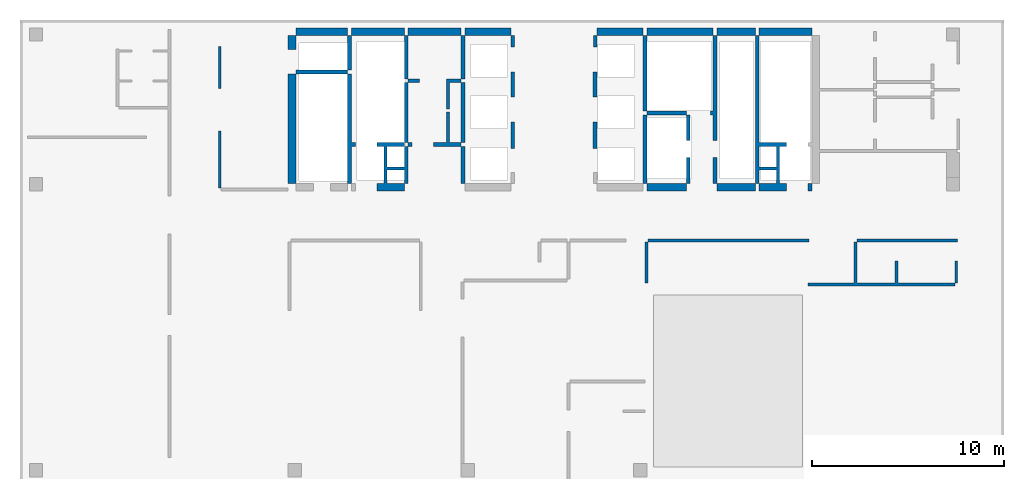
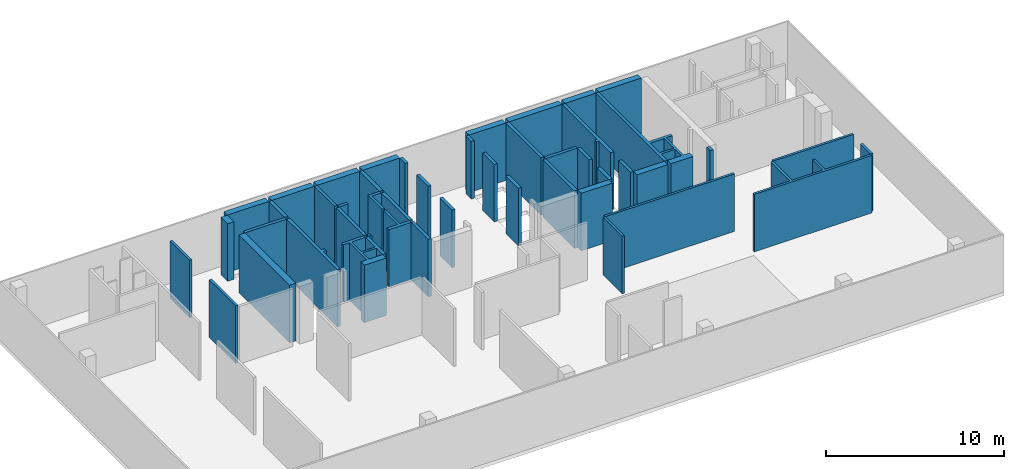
# One storey, part 2 of 5: 47 walls.
"""IFC4 building model written with IfcOpenShell, lengths in millimetres."""

from ifc_helpers import new_model, si_unit, frame, origin, place, context, project, spatial, triangles, element, save


model = new_model("IFC4")

# Units and contexts
model_context = context("Model", 3, precision=0.001, world=origin())
ifc_project = project(units=[si_unit("LENGTHUNIT", "METRE", prefix="MILLI"), si_unit("AREAUNIT", "SQUARE_METRE"), si_unit("VOLUMEUNIT", "CUBIC_METRE")], contexts=[model_context])

# Site, building, storey
site_placement = place(None, origin())
site = spatial("IfcSite", under=ifc_project, at=site_placement, Name="Site", CompositionType="ELEMENT")
building_placement = place(site_placement, origin())
building = spatial("IfcBuilding", under=site, at=building_placement, Name="INNOCEAN", CompositionType="ELEMENT")
storey_placement = place(building_placement, frame((0.0, 0.0, 76400.0)))
storey = spatial("IfcBuildingStorey", under=building, at=storey_placement, Name="F18", CompositionType="ELEMENT", Elevation=76400.0)

# Walls
wall_1_placement = place(storey_placement, origin())
element("IfcWall", 1, at=wall_1_placement, inside=storey, Name="F18_Walls_F18_009", context=model_context, shape_type="Tessellation", body=[
    triangles([(18130.0, 19245.0, 0.0), (18130.0, 17316.1, 0.0), (18130.0, 17316.1, 3950.0), (18130.0, 19245.0, 3950.0), (17749.4, 17316.1, 0.0), (17749.4, 17316.1, 3950.0), (17749.4, 16922.4, 0.0), (17749.4, 16922.4, 3950.0), (19183.7, 16922.4, 0.0), (19183.7, 16922.4, 3950.0), (19183.7, 17316.1, 0.0), (19183.7, 17316.1, 3950.0), (19374.1, 17316.1, 0.0), (19374.1, 17316.1, 3950.0), (19374.1, 19246.7, 0.0), (19374.1, 19246.7, 3950.0), (19183.7, 19246.7, 0.0), (19183.7, 19246.7, 3950.0), (19183.7, 19449.9, 0.0), (19183.7, 19449.9, 3950.0), (17749.4, 19449.9, 0.0), (17749.4, 19449.9, 3950.0), (17749.4, 19246.7, 0.0), (17749.4, 19246.7, 3950.0), (18130.2, 19246.7, 0.0), (18130.2, 19246.7, 3950.0), (18130.2, 19245.0, 0.0), (18130.2, 19245.0, 3950.0), (18282.5, 17316.1, 0.0), (18282.5, 17316.1, 3950.0), (18282.5, 18014.7, 0.0), (18282.5, 18014.7, 3950.0), (19183.7, 18014.7, 0.0), (19183.7, 18014.7, 3950.0), (19183.7, 18167.1, 0.0), (19183.7, 18167.1, 3950.0), (18282.5, 18167.1, 0.0), (18282.5, 18167.1, 3950.0), (18282.5, 19246.7, 0.0), (18282.5, 19246.7, 3950.0)], [[1, 2, 3], [1, 3, 4], [2, 5, 6], [2, 6, 3], [7, 8, 6], [5, 7, 6], [7, 9, 10], [7, 10, 8], [11, 12, 10], [9, 11, 10], [11, 13, 14], [11, 14, 12], [13, 15, 16], [13, 16, 14], [15, 17, 18], [15, 18, 16], [17, 19, 20], [17, 20, 18], [19, 21, 22], [19, 22, 20], [21, 23, 24], [21, 24, 22], [25, 26, 24], [23, 25, 24], [25, 27, 28], [25, 28, 26], [27, 1, 4], [27, 4, 28], [11, 29, 30], [11, 30, 12], [29, 31, 32], [29, 32, 30], [31, 33, 34], [31, 34, 32], [33, 11, 12], [33, 12, 34], [17, 35, 36], [17, 36, 18], [35, 37, 38], [35, 38, 36], [37, 39, 40], [37, 40, 38], [39, 17, 18], [39, 18, 40], [33, 13, 11], [35, 13, 33], [29, 11, 9], [7, 29, 9], [2, 29, 7], [5, 2, 7], [31, 35, 33], [31, 29, 2], [15, 13, 35], [37, 35, 31], [17, 15, 35], [39, 19, 17], [27, 39, 37], [1, 27, 37], [25, 39, 27], [21, 25, 23], [21, 19, 39], [21, 39, 25], [2, 1, 37], [2, 37, 31], [14, 34, 12], [14, 36, 34], [12, 30, 10], [30, 8, 10], [30, 3, 8], [3, 6, 8], [36, 32, 34], [30, 32, 3], [14, 16, 36], [36, 38, 32], [16, 18, 36], [20, 40, 18], [40, 28, 38], [28, 4, 38], [40, 26, 28], [26, 22, 24], [20, 22, 40], [40, 22, 26], [4, 3, 38], [38, 3, 32]], closed=True),
])
wall_2_placement = place(storey_placement, origin())
element("IfcWall", 2, at=wall_2_placement, inside=storey, Name="F18_Walls_F18_010", context=model_context, shape_type="Tessellation", body=[
    triangles([(16429.3, 23019.0, 0.0), (16226.2, 23019.0, 0.0), (16226.2, 23019.0, 3950.0), (16429.3, 23019.0, 3950.0), (16429.3, 19449.9, 0.0), (16429.3, 19449.9, 3950.0), (16632.4, 19449.9, 3950.0), (16632.4, 19449.9, 0.0), (16632.4, 19246.7, 0.0), (16632.4, 19246.7, 3950.0), (16429.3, 19246.7, 3950.0), (16429.3, 19246.7, 0.0), (16429.3, 17316.1, 0.0), (16429.3, 17316.1, 3950.0), (16226.2, 17316.1, 0.0), (16226.2, 17316.1, 3950.0), (16226.2, 19246.7, 0.0), (16226.2, 19246.7, 3950.0), (16226.2, 19449.9, 0.0), (16226.2, 19449.9, 3950.0)], [[1, 2, 3], [1, 3, 4], [5, 1, 4], [5, 4, 6], [5, 6, 7], [8, 5, 7], [9, 8, 7], [9, 7, 10], [9, 10, 11], [12, 9, 11], [13, 12, 11], [13, 11, 14], [15, 13, 14], [15, 14, 16], [17, 15, 16], [17, 16, 18], [19, 17, 18], [19, 18, 20], [2, 19, 20], [2, 20, 3], [17, 12, 13], [17, 13, 15], [5, 8, 9], [5, 9, 12], [19, 5, 12], [19, 12, 17], [1, 5, 19], [2, 1, 19], [11, 18, 14], [14, 18, 16], [7, 6, 10], [10, 6, 11], [6, 20, 11], [11, 20, 18], [6, 4, 20], [4, 3, 20]], closed=True),
])
wall_3_placement = place(storey_placement, origin())
element("IfcWall", 3, at=wall_3_placement, inside=storey, Name="F18_Walls_F18_011", context=model_context, shape_type="Tessellation", body=[
    triangles([(9638.4, 17074.8, 0.0), (9638.4, 20046.9, 0.0), (9638.4, 20046.9, 3950.0), (9638.4, 17074.8, 3950.0), (9486.1, 17074.8, 0.0), (9486.1, 17074.8, 3950.0), (9486.1, 20046.9, 0.0), (9486.1, 20046.9, 3950.0)], [[1, 2, 3], [1, 3, 4], [5, 1, 4], [5, 4, 6], [7, 5, 6], [7, 6, 8], [2, 7, 8], [2, 8, 3], [7, 2, 1], [7, 1, 5], [3, 8, 4], [4, 8, 6]], closed=True),
])
wall_4_placement = place(storey_placement, origin())
element("IfcWall", 4, at=wall_4_placement, inside=storey, Name="F18_Walls_F18_013", context=model_context, shape_type="Tessellation", body=[
    triangles([(13535.2, 17316.1, 0.0), (13535.2, 17316.1, 3950.0), (13129.0, 17316.1, 3950.0), (13129.0, 17316.1, 0.0), (13129.0, 23019.0, 0.0), (13129.0, 23019.0, 3950.0), (13535.2, 23019.0, 3950.0), (13535.2, 23019.0, 0.0)], [[1, 2, 3], [4, 1, 3], [5, 4, 3], [5, 3, 6], [5, 6, 7], [8, 5, 7], [1, 8, 7], [1, 7, 2], [5, 1, 4], [5, 8, 1], [2, 6, 3], [7, 6, 2]], closed=True),
])
wall_5_placement = place(storey_placement, origin())
element("IfcWall", 5, at=wall_5_placement, inside=storey, Name="F18_Walls_F18_016", context=model_context, shape_type="Tessellation", body=[
    triangles([(16226.2, 23019.0, 0.0), (16226.2, 23222.2, 0.0), (16226.2, 23222.2, 3950.0), (16226.2, 23019.0, 3950.0), (13535.2, 23019.0, 0.0), (13535.2, 23019.0, 3950.0), (13535.2, 23222.2, 0.0), (13535.2, 23222.2, 3950.0)], [[1, 2, 3], [1, 3, 4], [5, 1, 4], [5, 4, 6], [7, 5, 6], [7, 6, 8], [2, 7, 8], [2, 8, 3], [7, 2, 1], [7, 1, 5], [3, 8, 4], [4, 8, 6]], closed=True),
])
wall_6_placement = place(storey_placement, origin())
element("IfcWall", 6, at=wall_6_placement, inside=storey, Name="F18_Walls_F18_017", context=model_context, shape_type="Tessellation", body=[
    triangles([(9638.4, 22244.2, 0.0), (9638.4, 24454.2, 0.0), (9638.4, 24454.2, 3950.0), (9638.4, 22244.2, 3950.0), (9486.1, 22244.2, 0.0), (9486.1, 22244.2, 3950.0), (9486.1, 24454.2, 0.0), (9486.1, 24454.2, 3950.0)], [[1, 2, 3], [1, 3, 4], [5, 1, 4], [5, 4, 6], [7, 5, 6], [7, 6, 8], [2, 7, 8], [2, 8, 3], [7, 2, 1], [7, 1, 5], [3, 8, 4], [4, 8, 6]], closed=True),
])
wall_7_placement = place(storey_placement, origin())
element("IfcWall", 7, at=wall_7_placement, inside=storey, Name="F18_Walls_F18_018", context=model_context, shape_type="Tessellation", body=[
    triangles([(16429.3, 23222.2, 0.0), (16429.3, 25025.8, 0.0), (16429.3, 25025.8, 3950.0), (16429.3, 23222.2, 3950.0), (16226.2, 23222.2, 0.0), (16226.2, 23222.2, 3950.0), (16226.2, 25025.8, 0.0), (16226.2, 25025.8, 3950.0)], [[1, 2, 3], [1, 3, 4], [5, 1, 4], [5, 4, 6], [7, 5, 6], [7, 6, 8], [2, 7, 8], [2, 8, 3], [7, 2, 1], [7, 1, 5], [3, 8, 4], [4, 8, 6]], closed=True),
])
wall_8_placement = place(storey_placement, origin())
element("IfcWall", 8, at=wall_8_placement, inside=storey, Name="F18_Walls_F18_019", context=model_context, shape_type="Tessellation", body=[
    triangles([(13535.2, 24276.4, 0.0), (13535.2, 25025.8, 0.0), (13535.2, 25025.8, 3950.0), (13535.2, 24276.4, 3950.0), (13129.0, 24276.4, 3950.0), (13129.0, 24276.4, 0.0), (13129.0, 25025.8, 0.0), (13129.0, 25025.8, 3950.0)], [[1, 2, 3], [1, 3, 4], [1, 4, 5], [6, 1, 5], [7, 6, 5], [7, 5, 8], [7, 8, 3], [2, 7, 3], [2, 1, 6], [7, 2, 6], [4, 3, 5], [3, 8, 5]], closed=True),
])
wall_9_placement = place(storey_placement, origin())
element("IfcWall", 9, at=wall_9_placement, inside=storey, Name="F18_Walls_F18_020", context=model_context, shape_type="Tessellation", body=[
    triangles([(13535.2, 25419.5, 0.0), (13535.2, 25025.8, 0.0), (13535.2, 25025.8, 3950.0), (13535.2, 25419.5, 3950.0), (16226.2, 25419.5, 0.0), (16226.2, 25419.5, 3950.0), (16226.2, 25025.8, 0.0), (16226.2, 25025.8, 3950.0)], [[1, 2, 3], [1, 3, 4], [5, 1, 4], [5, 4, 6], [7, 5, 6], [7, 6, 8], [2, 7, 8], [2, 8, 3], [2, 5, 7], [1, 5, 2], [6, 3, 8], [6, 4, 3]], closed=True),
])
wall_10_placement = place(storey_placement, origin())
element("IfcWall", 10, at=wall_10_placement, inside=storey, Name="F18_Walls_F18_021", context=model_context, shape_type="Tessellation", body=[
    triangles([(19183.7, 25025.8, 0.0), (19183.7, 25419.5, 0.0), (19183.7, 25419.5, 3950.0), (19183.7, 25025.8, 3950.0), (16429.3, 25025.8, 0.0), (16429.3, 25025.8, 3950.0), (16429.3, 25419.5, 0.0), (16429.3, 25419.5, 3950.0)], [[1, 2, 3], [1, 3, 4], [5, 1, 4], [5, 4, 6], [7, 5, 6], [7, 6, 8], [2, 7, 8], [2, 8, 3], [7, 2, 1], [7, 1, 5], [3, 8, 4], [4, 8, 6]], closed=True),
])
wall_11_placement = place(storey_placement, origin())
element("IfcWall", 11, at=wall_11_placement, inside=storey, Name="F18_Walls_F18_033", context=model_context, shape_type="Tessellation", body=[
    triangles([(22128.5, 17316.1, 0.0), (22331.6, 17316.1, 0.0), (22331.6, 17316.1, 3950.0), (22128.5, 17316.1, 3950.0), (22128.5, 19246.7, 0.0), (22128.5, 19246.7, 3950.0), (22331.6, 19246.7, 0.0), (22331.6, 19246.7, 3950.0)], [[1, 2, 3], [1, 3, 4], [5, 1, 4], [5, 4, 6], [7, 5, 6], [7, 6, 8], [2, 7, 8], [2, 8, 3], [5, 2, 1], [5, 7, 2], [3, 6, 4], [8, 6, 3]], closed=True),
])
wall_12_placement = place(storey_placement, origin())
element("IfcWall", 12, at=wall_12_placement, inside=storey, Name="F18_Walls_F18_034", context=model_context, shape_type="Tessellation", body=[
    triangles([(19374.1, 19449.9, 0.0), (19374.1, 19449.9, 3950.0), (19577.2, 19449.9, 3950.0), (19577.2, 19449.9, 0.0), (19577.2, 19246.7, 0.0), (19577.2, 19246.7, 3950.0), (19374.1, 19246.7, 3950.0), (19374.1, 19246.7, 0.0)], [[1, 2, 3], [4, 1, 3], [5, 4, 3], [5, 3, 6], [5, 6, 7], [8, 5, 7], [1, 8, 7], [1, 7, 2], [1, 4, 5], [1, 5, 8], [3, 2, 6], [6, 2, 7]], closed=True),
])
wall_13_placement = place(storey_placement, origin())
element("IfcWall", 13, at=wall_13_placement, inside=storey, Name="F18_Walls_F18_035", context=model_context, shape_type="Tessellation", body=[
    triangles([(22128.5, 19246.7, 0.0), (22128.5, 19449.9, 0.0), (22128.5, 19449.9, 3950.0), (22128.5, 19246.7, 3950.0), (20694.2, 19246.7, 0.0), (20694.2, 19246.7, 3950.0), (20694.2, 19449.9, 0.0), (20694.2, 19449.9, 3950.0), (21366.9, 19449.9, 0.0), (21366.9, 19449.9, 3950.0), (21366.9, 21024.9, 0.0), (21366.9, 21024.9, 3950.0), (21519.3, 21024.9, 0.0), (21519.3, 21024.9, 3950.0), (21519.3, 19449.9, 0.0), (21519.3, 19449.9, 3950.0)], [[1, 2, 3], [1, 3, 4], [5, 1, 4], [5, 4, 6], [7, 5, 6], [7, 6, 8], [9, 7, 8], [9, 8, 10], [11, 9, 10], [11, 10, 12], [13, 11, 12], [13, 12, 14], [15, 13, 14], [15, 14, 16], [2, 15, 16], [2, 16, 3], [15, 2, 1], [9, 15, 1], [5, 9, 1], [7, 9, 5], [11, 13, 15], [11, 15, 9], [3, 16, 4], [16, 10, 4], [10, 6, 4], [10, 8, 6], [14, 12, 16], [16, 12, 10]], closed=True),
])
wall_14_placement = place(storey_placement, origin())
element("IfcWall", 14, at=wall_14_placement, inside=storey, Name="F18_Walls_F18_036", context=model_context, shape_type="Tessellation", body=[
    triangles([(24730.6, 19119.7, 0.0), (24921.0, 19119.7, 0.0), (24921.0, 19119.7, 3950.0), (24730.6, 19119.7, 3950.0), (24730.6, 19120.0, 0.0), (24730.6, 19120.0, 3950.0), (24730.0, 19120.0, 0.0), (24730.0, 19120.0, 3950.0), (24730.0, 20515.0, 0.0), (24730.0, 20515.0, 3950.0), (24730.6, 20515.0, 0.0), (24730.6, 20515.0, 3950.0), (24730.6, 20516.8, 3950.0), (24730.6, 20516.8, 0.0), (24921.0, 20516.8, 0.0), (24921.0, 20516.8, 3950.0)], [[1, 2, 3], [1, 3, 4], [5, 1, 4], [5, 4, 6], [7, 5, 6], [7, 6, 8], [9, 7, 8], [9, 8, 10], [11, 9, 10], [11, 10, 12], [11, 12, 13], [14, 11, 13], [15, 14, 13], [15, 13, 16], [2, 15, 16], [2, 16, 3], [5, 2, 1], [11, 15, 2], [11, 2, 5], [9, 5, 7], [9, 11, 5], [14, 15, 11], [3, 6, 4], [16, 12, 3], [3, 12, 6], [6, 10, 8], [12, 10, 6], [16, 13, 12]], closed=True),
])
wall_15_placement = place(storey_placement, origin())
element("IfcWall", 15, at=wall_15_placement, inside=storey, Name="F18_Walls_F18_037", context=model_context, shape_type="Tessellation", body=[
    triangles([(19183.7, 19449.9, 0.0), (19374.1, 19449.9, 0.0), (19374.1, 19449.9, 3950.0), (19183.7, 19449.9, 3950.0), (19183.7, 22574.4, 0.0), (19183.7, 22574.4, 3950.0), (19374.1, 22574.4, 0.0), (19374.1, 22574.4, 3950.0)], [[1, 2, 3], [1, 3, 4], [5, 1, 4], [5, 4, 6], [7, 5, 6], [7, 6, 8], [2, 7, 8], [2, 8, 3], [7, 2, 1], [5, 7, 1], [3, 8, 4], [8, 6, 4]], closed=True),
])
wall_16_placement = place(storey_placement, origin())
element("IfcWall", 16, at=wall_16_placement, inside=storey, Name="F18_Walls_F18_038", context=model_context, shape_type="Tessellation", body=[
    triangles([(22331.6, 19449.9, 0.0), (22331.6, 22574.4, 0.0), (22331.6, 22574.4, 3950.0), (22331.6, 19449.9, 3950.0), (22128.5, 19449.9, 0.0), (22128.5, 19449.9, 3950.0), (22128.5, 22574.4, 0.0), (22128.5, 22574.4, 3950.0)], [[1, 2, 3], [1, 3, 4], [5, 1, 4], [5, 4, 6], [7, 5, 6], [7, 6, 8], [2, 7, 8], [2, 8, 3], [2, 1, 5], [7, 2, 5], [4, 3, 6], [3, 8, 6]], closed=True),
])
wall_17_placement = place(storey_placement, origin())
element("IfcWall", 17, at=wall_17_placement, inside=storey, Name="F18_Walls_F18_039", context=model_context, shape_type="Tessellation", body=[
    triangles([(22128.5, 22765.0, 0.0), (22128.5, 22765.0, 3950.0), (22128.5, 22574.4, 3950.0), (22128.5, 22574.4, 0.0), (21519.3, 22574.4, 0.0), (21519.3, 22574.4, 3950.0), (21519.3, 21177.3, 0.0), (21519.3, 21177.3, 3950.0), (21366.9, 21177.3, 0.0), (21366.9, 21177.3, 3950.0), (21366.9, 22574.4, 0.0), (21366.9, 22574.4, 3950.0), (21366.9, 22765.0, 3950.0), (21366.9, 22765.0, 0.0)], [[1, 2, 3], [4, 1, 3], [5, 4, 3], [5, 3, 6], [7, 5, 6], [7, 6, 8], [9, 7, 8], [9, 8, 10], [11, 9, 10], [11, 10, 12], [11, 12, 13], [14, 11, 13], [1, 14, 13], [1, 13, 2], [5, 1, 4], [11, 5, 7], [11, 7, 9], [14, 1, 5], [14, 5, 11], [2, 6, 3], [6, 12, 8], [8, 12, 10], [2, 13, 6], [6, 13, 12]], closed=True),
])
wall_18_placement = place(storey_placement, origin())
element("IfcWall", 18, at=wall_18_placement, inside=storey, Name="F18_Walls_F18_040", context=model_context, shape_type="Tessellation", body=[
    triangles([(24920.0, 21825.0, 0.0), (24920.0, 21825.1, 0.0), (24920.0, 21825.1, 3950.0), (24920.0, 21825.0, 3950.0), (24730.0, 21825.0, 0.0), (24730.0, 21825.0, 3950.0), (24730.0, 23120.0, 3950.0), (24730.0, 23120.0, 0.0), (24730.6, 23120.0, 0.0), (24730.6, 23120.0, 3950.0), (24730.6, 23120.6, 0.0), (24730.6, 23120.6, 3950.0), (24921.0, 23120.6, 0.0), (24921.0, 23120.6, 3950.0), (24921.0, 21825.1, 0.0), (24921.0, 21825.1, 3950.0)], [[1, 2, 3], [1, 3, 4], [5, 1, 4], [5, 4, 6], [5, 6, 7], [8, 5, 7], [9, 8, 7], [9, 7, 10], [11, 9, 10], [11, 10, 12], [13, 11, 12], [13, 12, 14], [15, 13, 14], [15, 14, 16], [2, 15, 16], [2, 16, 3], [5, 2, 1], [13, 15, 2], [9, 13, 2], [9, 2, 5], [8, 9, 5], [11, 13, 9], [3, 6, 4], [16, 14, 3], [14, 10, 3], [3, 10, 6], [10, 7, 6], [14, 12, 10]], closed=True),
])
wall_19_placement = place(storey_placement, origin())
element("IfcWall", 19, at=wall_19_placement, inside=storey, Name="F18_Walls_F18_041", context=model_context, shape_type="Tessellation", body=[
    triangles([(19374.1, 22574.4, 0.0), (19970.7, 22574.4, 0.0), (19970.7, 22574.4, 3950.0), (19374.1, 22574.4, 3950.0), (19374.1, 22765.0, 3950.0), (19374.1, 22765.0, 0.0), (19970.7, 22765.0, 0.0), (19970.7, 22765.0, 3950.0)], [[1, 2, 3], [1, 3, 4], [1, 4, 5], [6, 1, 5], [7, 6, 5], [7, 5, 8], [7, 8, 3], [2, 7, 3], [6, 2, 1], [6, 7, 2], [3, 5, 4], [8, 5, 3]], closed=True),
])
wall_20_placement = place(storey_placement, origin())
element("IfcWall", 20, at=wall_20_placement, inside=storey, Name="F18_Walls_F18_042", context=model_context, shape_type="Tessellation", body=[
    triangles([(19374.1, 22765.0, 0.0), (19374.1, 25025.8, 0.0), (19374.1, 25025.8, 3950.0), (19374.1, 22765.0, 3950.0), (19183.7, 22765.0, 0.0), (19183.7, 22765.0, 3950.0), (19183.7, 25025.8, 0.0), (19183.7, 25025.8, 3950.0)], [[1, 2, 3], [1, 3, 4], [5, 1, 4], [5, 4, 6], [7, 5, 6], [7, 6, 8], [2, 7, 8], [2, 8, 3], [7, 2, 1], [7, 1, 5], [3, 8, 4], [4, 8, 6]], closed=True),
])
wall_21_placement = place(storey_placement, origin())
element("IfcWall", 21, at=wall_21_placement, inside=storey, Name="F18_Walls_F18_043", context=model_context, shape_type="Tessellation", body=[
    triangles([(22128.5, 25025.8, 0.0), (22128.5, 22765.0, 0.0), (22128.5, 22765.0, 3950.0), (22128.5, 25025.8, 3950.0), (22331.6, 25025.8, 0.0), (22331.6, 25025.8, 3950.0), (22331.6, 22765.0, 0.0), (22331.6, 22765.0, 3950.0)], [[1, 2, 3], [1, 3, 4], [5, 1, 4], [5, 4, 6], [7, 5, 6], [7, 6, 8], [2, 7, 8], [2, 8, 3], [1, 5, 7], [1, 7, 2], [6, 4, 8], [8, 4, 3]], closed=True),
])
wall_22_placement = place(storey_placement, origin())
element("IfcWall", 22, at=wall_22_placement, inside=storey, Name="F18_Walls_F18_044", context=model_context, shape_type="Tessellation", body=[
    triangles([(24730.6, 24416.1, 0.0), (24921.0, 24416.1, 0.0), (24921.0, 24416.1, 3950.0), (24730.6, 24416.1, 3950.0), (24730.6, 25025.8, 0.0), (24730.6, 25025.8, 3950.0), (24921.0, 25025.8, 0.0), (24921.0, 25025.8, 3950.0)], [[1, 2, 3], [1, 3, 4], [5, 1, 4], [5, 4, 6], [7, 5, 6], [7, 6, 8], [2, 7, 8], [2, 8, 3], [5, 2, 1], [5, 7, 2], [3, 6, 4], [8, 6, 3]], closed=True),
])
wall_23_placement = place(storey_placement, origin())
element("IfcWall", 23, at=wall_23_placement, inside=storey, Name="F18_Walls_F18_045", context=model_context, shape_type="Tessellation", body=[
    triangles([(19374.1, 25025.8, 0.0), (22128.5, 25025.8, 0.0), (22128.5, 25025.8, 3950.0), (19374.1, 25025.8, 3950.0), (19374.1, 25419.5, 0.0), (19374.1, 25419.5, 3950.0), (22128.5, 25419.5, 0.0), (22128.5, 25419.5, 3950.0)], [[1, 2, 3], [1, 3, 4], [5, 1, 4], [5, 4, 6], [7, 5, 6], [7, 6, 8], [2, 7, 8], [2, 8, 3], [5, 2, 1], [5, 7, 2], [3, 6, 4], [8, 6, 3]], closed=True),
])
wall_24_placement = place(storey_placement, origin())
element("IfcWall", 24, at=wall_24_placement, inside=storey, Name="F18_Walls_F18_046", context=model_context, shape_type="Tessellation", body=[
    triangles([(24730.6, 25025.8, 0.0), (24730.6, 25419.5, 0.0), (24730.6, 25419.5, 3950.0), (24730.6, 25025.8, 3950.0), (22331.6, 25025.8, 0.0), (22331.6, 25025.8, 3950.0), (22331.6, 25419.5, 0.0), (22331.6, 25419.5, 3950.0)], [[1, 2, 3], [1, 3, 4], [5, 1, 4], [5, 4, 6], [7, 5, 6], [7, 6, 8], [2, 7, 8], [2, 8, 3], [7, 2, 1], [7, 1, 5], [3, 8, 4], [4, 8, 6]], closed=True),
])
wall_25_placement = place(storey_placement, origin())
element("IfcWall", 25, at=wall_25_placement, inside=storey, Name="F18_Walls_F18_049", context=model_context, shape_type="Tessellation", body=[
    triangles([(31876.9, 12121.3, 0.0), (31876.9, 14267.8, 0.0), (31876.9, 14267.8, 3950.0), (31876.9, 12121.3, 3950.0), (31724.6, 12121.3, 0.0), (31724.6, 12121.3, 3950.0), (31724.6, 14267.8, 0.0), (31724.6, 14267.8, 3950.0)], [[1, 2, 3], [1, 3, 4], [5, 1, 4], [5, 4, 6], [7, 5, 6], [7, 6, 8], [2, 7, 8], [2, 8, 3], [7, 2, 1], [7, 1, 5], [3, 8, 4], [4, 8, 6]], closed=True),
])
wall_26_placement = place(storey_placement, origin())
element("IfcWall", 26, at=wall_26_placement, inside=storey, Name="F18_Walls_F18_051", context=model_context, shape_type="Tessellation", body=[
    triangles([(31876.9, 14267.8, 3950.0), (40267.1, 14267.8, 0.0), (40267.1, 14267.8, 3950.0), (31876.9, 14267.8, 0.0), (31876.9, 14420.2, 0.0), (31876.9, 14420.2, 3950.0), (40267.1, 14420.2, 3950.0), (40267.1, 14420.2, 0.0)], [[1, 2, 3], [4, 2, 1], [5, 4, 1], [5, 1, 6], [7, 5, 6], [8, 5, 7], [2, 8, 7], [2, 7, 3], [5, 2, 4], [5, 8, 2], [3, 6, 1], [7, 6, 3]], closed=True),
])
wall_27_placement = place(storey_placement, origin())
element("IfcWall", 27, at=wall_27_placement, inside=storey, Name="F18_Walls_F18_052", context=model_context, shape_type="Tessellation", body=[
    triangles([(31826.2, 16922.4, 0.0), (33869.8, 16922.4, 0.0), (33869.8, 16922.4, 3950.0), (31826.2, 16922.4, 3950.0), (31826.2, 17316.1, 3950.0), (31826.2, 17316.1, 0.0), (33869.8, 17316.1, 0.0), (33869.8, 17316.1, 3950.0)], [[1, 2, 3], [1, 3, 4], [1, 4, 5], [6, 1, 5], [7, 6, 5], [7, 5, 8], [7, 8, 3], [2, 7, 3], [6, 2, 1], [6, 7, 2], [3, 5, 4], [8, 5, 3]], closed=True),
])
wall_28_placement = place(storey_placement, origin())
element("IfcWall", 28, at=wall_28_placement, inside=storey, Name="F18_Walls_F18_053", context=model_context, shape_type="Tessellation", body=[
    triangles([(37474.6, 19449.9, 0.0), (37474.6, 17316.1, 0.0), (37474.6, 17316.1, 3950.0), (37474.6, 19449.9, 3950.0), (37665.0, 17316.1, 0.0), (37665.0, 17316.1, 3950.0), (37665.0, 16922.4, 0.0), (37665.0, 16922.4, 3950.0), (39099.4, 16922.4, 0.0), (39099.4, 16922.4, 3950.0), (39099.4, 17316.1, 0.0), (39099.4, 17316.1, 3950.0), (38720.0, 17316.1, 0.0), (38720.0, 17316.1, 3950.0), (38720.0, 19245.0, 0.0), (38720.0, 19245.0, 3950.0), (39100.0, 19245.0, 0.0), (39100.0, 19245.0, 3950.0), (39100.0, 19450.0, 0.0), (39100.0, 19450.0, 3950.0), (37665.0, 19450.0, 0.0), (37665.0, 19450.0, 3950.0), (37665.0, 25025.8, 0.0), (37665.0, 25025.8, 3950.0), (37474.6, 25025.8, 0.0), (37474.6, 25025.8, 3950.0), (37665.0, 18014.7, 0.0), (37665.0, 18014.7, 3950.0), (38565.0, 18014.7, 0.0), (38565.0, 18014.7, 3950.0), (38565.0, 17316.1, 0.0), (38565.0, 17316.1, 3950.0), (37665.0, 19245.0, 0.0), (38565.0, 19245.0, 0.0), (38565.0, 19245.0, 3950.0), (37665.0, 19245.0, 3950.0), (38565.0, 18167.1, 0.0), (38565.0, 18167.1, 3950.0), (37665.0, 18167.1, 0.0), (37665.0, 18167.1, 3950.0)], [[1, 2, 3], [1, 3, 4], [2, 5, 6], [2, 6, 3], [7, 8, 6], [5, 7, 6], [7, 9, 10], [7, 10, 8], [11, 12, 10], [9, 11, 10], [11, 13, 14], [11, 14, 12], [13, 15, 16], [13, 16, 14], [17, 18, 16], [15, 17, 16], [17, 19, 20], [17, 20, 18], [19, 21, 22], [19, 22, 20], [21, 23, 24], [21, 24, 22], [23, 25, 26], [23, 26, 24], [25, 1, 4], [25, 4, 26], [5, 27, 28], [5, 28, 6], [27, 29, 30], [27, 30, 28], [29, 31, 32], [29, 32, 30], [31, 5, 6], [31, 6, 32], [33, 34, 35], [33, 35, 36], [34, 37, 38], [34, 38, 35], [37, 39, 40], [37, 40, 38], [39, 33, 36], [39, 36, 40], [13, 11, 9], [31, 13, 9], [7, 31, 9], [29, 13, 31], [5, 31, 7], [27, 5, 2], [39, 29, 27], [39, 37, 29], [39, 27, 2], [15, 19, 17], [34, 15, 37], [34, 19, 15], [21, 34, 33], [21, 19, 34], [1, 33, 39], [1, 21, 33], [1, 39, 2], [25, 23, 21], [25, 21, 1], [15, 13, 29], [15, 29, 37], [12, 14, 10], [14, 32, 10], [32, 8, 10], [14, 30, 32], [32, 6, 8], [6, 28, 3], [30, 40, 28], [38, 40, 30], [28, 40, 3], [20, 16, 18], [16, 35, 38], [20, 35, 16], [35, 22, 36], [20, 22, 35], [36, 4, 40], [22, 4, 36], [40, 4, 3], [24, 26, 22], [22, 26, 4], [14, 16, 30], [30, 16, 38]], closed=True),
])
wall_29_placement = place(storey_placement, origin())
element("IfcWall", 29, at=wall_29_placement, inside=storey, Name="F18_Walls_F18_055", context=model_context, shape_type="Tessellation", body=[
    triangles([(37474.6, 17316.1, 0.0), (37474.6, 17316.1, 3950.0), (37474.6, 16922.4, 3950.0), (37474.6, 16922.4, 0.0), (35469.1, 16922.4, 0.0), (35469.1, 16922.4, 3950.0), (35469.1, 17316.1, 3950.0), (35469.1, 17316.1, 0.0)], [[1, 2, 3], [4, 1, 3], [5, 4, 3], [5, 3, 6], [5, 6, 7], [8, 5, 7], [1, 8, 7], [1, 7, 2], [8, 1, 4], [8, 4, 5], [2, 7, 3], [3, 7, 6]], closed=True),
])
wall_30_placement = place(storey_placement, origin())
element("IfcWall", 30, at=wall_30_placement, inside=storey, Name="F18_Walls_F18_057", context=model_context, shape_type="Tessellation", body=[
    triangles([(34072.9, 17316.1, 0.0), (34072.9, 18649.7, 0.0), (34072.9, 18649.7, 3950.0), (34072.9, 17316.1, 3950.0), (33869.8, 17316.1, 0.0), (33869.8, 17316.1, 3950.0), (33869.8, 18649.7, 0.0), (33869.8, 18649.7, 3950.0)], [[1, 2, 3], [1, 3, 4], [5, 1, 4], [5, 4, 6], [7, 5, 6], [7, 6, 8], [2, 7, 8], [2, 8, 3], [7, 2, 1], [7, 1, 5], [3, 8, 4], [4, 8, 6]], closed=True),
])
wall_31_placement = place(storey_placement, origin())
element("IfcWall", 31, at=wall_31_placement, inside=storey, Name="F18_Walls_F18_058", context=model_context, shape_type="Tessellation", body=[
    triangles([(35469.1, 17316.1, 0.0), (35469.1, 18649.7, 0.0), (35469.1, 18649.7, 3950.0), (35469.1, 17316.1, 3950.0), (35266.0, 17316.1, 0.0), (35266.0, 17316.1, 3950.0), (35266.0, 18649.7, 0.0), (35266.0, 18649.7, 3950.0)], [[1, 2, 3], [1, 3, 4], [5, 1, 4], [5, 4, 6], [7, 5, 6], [7, 6, 8], [2, 7, 8], [2, 8, 3], [7, 2, 1], [7, 1, 5], [3, 8, 4], [4, 8, 6]], closed=True),
])
wall_32_placement = place(storey_placement, origin())
element("IfcWall", 32, at=wall_32_placement, inside=storey, Name="F18_Walls_F18_059", context=model_context, shape_type="Tessellation", body=[
    triangles([(31826.2, 20872.5, 0.0), (31826.2, 20872.5, 3950.0), (31826.2, 17316.1, 3950.0), (31826.2, 17316.1, 0.0), (31623.1, 17316.1, 3950.0), (31623.1, 17316.1, 0.0), (31623.1, 20872.5, 3950.0), (31623.1, 20872.5, 0.0)], [[1, 2, 3], [4, 1, 3], [4, 3, 5], [6, 4, 5], [6, 5, 7], [8, 6, 7], [8, 7, 2], [1, 8, 2], [8, 1, 4], [8, 4, 6], [2, 7, 3], [3, 7, 5]], closed=True),
])
wall_33_placement = place(storey_placement, origin())
element("IfcWall", 33, at=wall_33_placement, inside=storey, Name="F18_Walls_F18_060", context=model_context, shape_type="Tessellation", body=[
    triangles([(29020.0, 20515.0, 0.0), (29020.0, 19120.0, 0.0), (29020.0, 19120.0, 3950.0), (29020.0, 20515.0, 3950.0), (29020.9, 20515.0, 0.0), (29020.9, 20515.0, 3950.0), (29020.9, 20516.8, 3950.0), (29020.9, 20516.8, 0.0), (29224.0, 20516.8, 0.0), (29224.0, 20516.8, 3950.0), (29224.0, 20515.0, 3950.0), (29224.0, 20515.0, 0.0), (29225.0, 20515.0, 0.0), (29225.0, 20515.0, 3950.0), (29225.0, 19120.0, 0.0), (29225.0, 19120.0, 3950.0), (29224.0, 19120.0, 0.0), (29224.0, 19120.0, 3950.0), (29224.0, 19119.7, 0.0), (29224.0, 19119.7, 3950.0), (29020.9, 19119.7, 0.0), (29020.9, 19119.7, 3950.0), (29020.9, 19120.0, 0.0), (29020.9, 19120.0, 3950.0)], [[1, 2, 3], [1, 3, 4], [5, 1, 4], [5, 4, 6], [5, 6, 7], [8, 5, 7], [9, 8, 7], [9, 7, 10], [9, 10, 11], [12, 9, 11], [13, 12, 11], [13, 11, 14], [15, 13, 14], [15, 14, 16], [17, 15, 16], [17, 16, 18], [19, 17, 18], [19, 18, 20], [21, 19, 20], [21, 20, 22], [23, 21, 22], [23, 22, 24], [2, 23, 24], [2, 24, 3], [23, 17, 19], [23, 19, 21], [12, 13, 15], [12, 15, 17], [12, 17, 23], [5, 12, 23], [1, 23, 2], [1, 5, 23], [8, 9, 12], [8, 12, 5], [18, 24, 20], [20, 24, 22], [14, 11, 16], [16, 11, 18], [18, 11, 24], [11, 6, 24], [24, 4, 3], [6, 4, 24], [10, 7, 11], [11, 7, 6]], closed=True),
])
wall_34_placement = place(storey_placement, origin())
element("IfcWall", 34, at=wall_34_placement, inside=storey, Name="F18_Walls_F18_061", context=model_context, shape_type="Tessellation", body=[
    triangles([(33869.8, 19551.5, 0.0), (34072.9, 19551.5, 0.0), (34072.9, 19551.5, 3950.0), (33869.8, 19551.5, 3950.0), (33869.8, 20872.5, 0.0), (33869.8, 20872.5, 3950.0), (34072.9, 20872.5, 0.0), (34072.9, 20872.5, 3950.0)], [[1, 2, 3], [1, 3, 4], [5, 1, 4], [5, 4, 6], [7, 5, 6], [7, 6, 8], [2, 7, 8], [2, 8, 3], [5, 2, 1], [5, 7, 2], [3, 6, 4], [8, 6, 3]], closed=True),
])
wall_35_placement = place(storey_placement, origin())
element("IfcWall", 35, at=wall_35_placement, inside=storey, Name="F18_Walls_F18_062", context=model_context, shape_type="Tessellation", body=[
    triangles([(35266.0, 21075.7, 0.0), (35126.4, 21075.7, 0.0), (35126.4, 21075.7, 3950.0), (35266.0, 21075.7, 3950.0), (35266.0, 25025.8, 3950.0), (35266.0, 25025.8, 0.0), (35469.1, 25025.8, 0.0), (35469.1, 25025.8, 3950.0), (35469.1, 21075.7, 3950.0), (35469.1, 21075.7, 0.0), (35469.1, 20872.5, 0.0), (35469.1, 20872.5, 3950.0), (35469.1, 19551.5, 0.0), (35469.1, 19551.5, 3950.0), (35266.0, 19551.5, 0.0), (35266.0, 19551.5, 3950.0), (35266.0, 20872.5, 0.0), (35266.0, 20872.5, 3950.0), (35126.4, 20872.5, 0.0), (35126.4, 20872.5, 3950.0)], [[1, 2, 3], [1, 3, 4], [5, 1, 4], [6, 1, 5], [7, 6, 5], [7, 5, 8], [9, 7, 8], [10, 7, 9], [11, 10, 9], [11, 9, 12], [13, 11, 12], [13, 12, 14], [15, 13, 14], [15, 14, 16], [17, 15, 16], [17, 16, 18], [19, 17, 18], [19, 18, 20], [2, 19, 20], [2, 20, 3], [17, 11, 13], [17, 13, 15], [10, 11, 17], [1, 10, 17], [2, 17, 19], [2, 1, 17], [6, 7, 10], [6, 10, 1], [12, 18, 14], [14, 18, 16], [12, 9, 18], [9, 4, 18], [18, 3, 20], [4, 3, 18], [8, 5, 9], [9, 5, 4]], closed=True),
])
wall_36_placement = place(storey_placement, origin())
element("IfcWall", 36, at=wall_36_placement, inside=storey, Name="F18_Walls_F18_063", context=model_context, shape_type="Tessellation", body=[
    triangles([(33869.8, 20872.5, 0.0), (33869.8, 21075.7, 0.0), (33869.8, 21075.7, 3950.0), (33869.8, 20872.5, 3950.0), (31826.2, 20872.5, 0.0), (31826.2, 20872.5, 3950.0), (31826.2, 21075.7, 0.0), (31826.2, 21075.7, 3950.0)], [[1, 2, 3], [1, 3, 4], [5, 1, 4], [5, 4, 6], [7, 5, 6], [7, 6, 8], [2, 7, 8], [2, 8, 3], [7, 2, 1], [7, 1, 5], [3, 8, 4], [4, 8, 6]], closed=True),
])
wall_37_placement = place(storey_placement, origin())
element("IfcWall", 37, at=wall_37_placement, inside=storey, Name="F18_Walls_F18_064", context=model_context, shape_type="Tessellation", body=[
    triangles([(29225.0, 23120.0, 0.0), (29225.0, 23120.0, 3950.0), (29225.0, 21825.0, 3950.0), (29225.0, 21825.0, 0.0), (29020.0, 21825.0, 0.0), (29020.0, 21825.0, 3950.0), (29020.0, 23120.0, 3950.0), (29020.0, 23120.0, 0.0), (29020.9, 23120.0, 0.0), (29020.9, 23120.0, 3950.0), (29020.9, 23120.6, 0.0), (29020.9, 23120.6, 3950.0), (29224.0, 23120.6, 0.0), (29224.0, 23120.6, 3950.0), (29224.0, 23120.0, 0.0), (29224.0, 23120.0, 3950.0)], [[1, 2, 3], [4, 1, 3], [5, 4, 3], [5, 3, 6], [5, 6, 7], [8, 5, 7], [9, 8, 7], [9, 7, 10], [11, 9, 10], [11, 10, 12], [13, 11, 12], [13, 12, 14], [15, 13, 14], [15, 14, 16], [1, 15, 16], [1, 16, 2], [15, 1, 4], [15, 4, 5], [9, 15, 5], [11, 13, 15], [11, 15, 9], [8, 9, 5], [2, 16, 3], [3, 16, 6], [16, 10, 6], [14, 12, 16], [16, 12, 10], [10, 7, 6]], closed=True),
])
wall_38_placement = place(storey_placement, origin())
element("IfcWall", 38, at=wall_38_placement, inside=storey, Name="F18_Walls_F18_065", context=model_context, shape_type="Tessellation", body=[
    triangles([(31623.1, 25025.8, 3950.0), (31623.1, 21075.7, 0.0), (31623.1, 21075.7, 3950.0), (31623.1, 25025.8, 0.0), (31826.2, 25025.8, 3950.0), (31826.2, 25025.8, 0.0), (31826.2, 21075.7, 3950.0), (31826.2, 21075.7, 0.0)], [[1, 2, 3], [4, 2, 1], [4, 1, 5], [6, 4, 5], [7, 6, 5], [8, 6, 7], [8, 7, 3], [2, 8, 3], [6, 8, 2], [4, 6, 2], [7, 5, 3], [5, 1, 3]], closed=True),
])
wall_39_placement = place(storey_placement, origin())
element("IfcWall", 39, at=wall_39_placement, inside=storey, Name="F18_Walls_F18_066", context=model_context, shape_type="Tessellation", body=[
    triangles([(29224.0, 24416.1, 0.0), (29224.0, 25025.8, 0.0), (29224.0, 25025.8, 3950.0), (29224.0, 24416.1, 3950.0), (29020.9, 24416.1, 0.0), (29020.9, 24416.1, 3950.0), (29020.9, 25025.8, 0.0), (29020.9, 25025.8, 3950.0)], [[1, 2, 3], [1, 3, 4], [5, 1, 4], [5, 4, 6], [7, 5, 6], [7, 6, 8], [2, 7, 8], [2, 8, 3], [7, 2, 1], [7, 1, 5], [3, 8, 4], [4, 8, 6]], closed=True),
])
wall_40_placement = place(storey_placement, origin())
element("IfcWall", 40, at=wall_40_placement, inside=storey, Name="F18_Walls_F18_067", context=model_context, shape_type="Tessellation", body=[
    triangles([(29224.0, 25419.5, 0.0), (29224.0, 25025.8, 0.0), (29224.0, 25025.8, 3950.0), (29224.0, 25419.5, 3950.0), (31623.1, 25419.5, 0.0), (31623.1, 25419.5, 3950.0), (31623.1, 25025.8, 0.0), (31623.1, 25025.8, 3950.0)], [[1, 2, 3], [1, 3, 4], [5, 1, 4], [5, 4, 6], [7, 5, 6], [7, 6, 8], [2, 7, 8], [2, 8, 3], [1, 5, 7], [1, 7, 2], [6, 4, 8], [8, 4, 3]], closed=True),
])
wall_41_placement = place(storey_placement, origin())
element("IfcWall", 41, at=wall_41_placement, inside=storey, Name="F18_Walls_F18_068", context=model_context, shape_type="Tessellation", body=[
    triangles([(37474.6, 25025.8, 0.0), (37474.6, 25419.5, 0.0), (37474.6, 25419.5, 3950.0), (37474.6, 25025.8, 3950.0), (35469.1, 25025.8, 0.0), (35469.1, 25025.8, 3950.0), (35469.1, 25419.5, 0.0), (35469.1, 25419.5, 3950.0)], [[1, 2, 3], [1, 3, 4], [5, 1, 4], [5, 4, 6], [7, 5, 6], [7, 6, 8], [2, 7, 8], [2, 8, 3], [7, 2, 1], [7, 1, 5], [3, 8, 4], [4, 8, 6]], closed=True),
])
wall_42_placement = place(storey_placement, origin())
element("IfcWall", 42, at=wall_42_placement, inside=storey, Name="F18_Walls_F18_069", context=model_context, shape_type="Tessellation", body=[
    triangles([(35266.0, 25025.8, 0.0), (35266.0, 25419.5, 0.0), (35266.0, 25419.5, 3950.0), (35266.0, 25025.8, 3950.0), (31826.2, 25025.8, 0.0), (31826.2, 25025.8, 3950.0), (31826.2, 25419.5, 0.0), (31826.2, 25419.5, 3950.0)], [[1, 2, 3], [1, 3, 4], [5, 1, 4], [5, 4, 6], [7, 5, 6], [7, 6, 8], [2, 7, 8], [2, 8, 3], [7, 2, 1], [7, 1, 5], [3, 8, 4], [4, 8, 6]], closed=True),
])
wall_43_placement = place(storey_placement, origin())
element("IfcWall", 43, at=wall_43_placement, inside=storey, Name="F18_Walls_F18_070", context=model_context, shape_type="Tessellation", body=[
    triangles([(42767.7, 12121.3, 0.0), (42767.7, 14267.8, 0.0), (42767.7, 14267.8, 3950.0), (42767.7, 12121.3, 3950.0), (44747.9, 12121.3, 0.0), (44747.9, 12121.3, 3950.0), (44747.9, 13277.1, 3950.0), (44747.9, 13277.1, 0.0), (44900.2, 13277.1, 0.0), (44900.2, 13277.1, 3950.0), (44900.2, 12121.3, 3950.0), (44900.2, 12121.3, 0.0), (47857.7, 12121.3, 3950.0), (47857.7, 12121.3, 0.0), (47857.7, 11968.9, 0.0), (47857.7, 11968.9, 3950.0), (40216.4, 11968.9, 0.0), (40216.4, 11968.9, 3950.0), (40216.4, 12121.3, 0.0), (40216.4, 12121.3, 3950.0), (42615.4, 12121.3, 0.0), (42615.4, 12121.3, 3950.0), (42615.4, 14267.8, 0.0), (42615.4, 14267.8, 3950.0)], [[1, 2, 3], [1, 3, 4], [5, 1, 4], [5, 4, 6], [5, 6, 7], [8, 5, 7], [9, 8, 7], [9, 7, 10], [9, 10, 11], [12, 9, 11], [12, 11, 13], [14, 12, 13], [15, 14, 13], [15, 13, 16], [17, 15, 16], [17, 16, 18], [19, 17, 18], [19, 18, 20], [21, 19, 20], [21, 20, 22], [23, 21, 22], [23, 22, 24], [2, 23, 24], [2, 24, 3], [12, 14, 15], [5, 12, 15], [8, 9, 12], [8, 12, 5], [23, 2, 1], [23, 1, 21], [17, 1, 5], [17, 21, 1], [19, 21, 17], [15, 17, 5], [13, 11, 16], [11, 6, 16], [10, 7, 11], [11, 7, 6], [3, 24, 4], [4, 24, 22], [4, 18, 6], [22, 18, 4], [22, 20, 18], [18, 16, 6]], closed=True),
])
wall_44_placement = place(storey_placement, origin())
element("IfcWall", 44, at=wall_44_placement, inside=storey, Name="F18_Walls_F18_071", context=model_context, shape_type="Tessellation", body=[
    triangles([(48010.0, 13277.1, 0.0), (48010.0, 13277.1, 3950.0), (48010.0, 12121.3, 3950.0), (48010.0, 12121.3, 0.0), (47857.7, 12121.3, 0.0), (47857.7, 12121.3, 3950.0), (47857.7, 13277.1, 3950.0), (47857.7, 13277.1, 0.0)], [[1, 2, 3], [4, 1, 3], [5, 4, 3], [5, 3, 6], [5, 6, 7], [8, 5, 7], [1, 8, 7], [1, 7, 2], [8, 1, 4], [8, 4, 5], [2, 7, 3], [3, 7, 6]], closed=True),
])
wall_45_placement = place(storey_placement, origin())
element("IfcWall", 45, at=wall_45_placement, inside=storey, Name="F18_Walls_F18_072", context=model_context, shape_type="Tessellation", body=[
    triangles([(42767.7, 14267.8, 0.0), (48010.0, 14267.8, 0.0), (48010.0, 14267.8, 3950.0), (42767.7, 14267.8, 3950.0), (42767.7, 14420.2, 0.0), (42767.7, 14420.2, 3950.0), (48010.0, 14420.2, 0.0), (48010.0, 14420.2, 3950.0)], [[1, 2, 3], [1, 3, 4], [5, 1, 4], [5, 4, 6], [7, 5, 6], [7, 6, 8], [2, 7, 8], [2, 8, 3], [5, 2, 1], [5, 7, 2], [3, 6, 4], [8, 6, 3]], closed=True),
])
wall_46_placement = place(storey_placement, origin())
element("IfcWall", 46, at=wall_46_placement, inside=storey, Name="F18_Walls_F18_073", context=model_context, shape_type="Tessellation", body=[
    triangles([(40216.4, 16922.4, 0.0), (40419.5, 16922.4, 0.0), (40419.5, 16922.4, 3950.0), (40216.4, 16922.4, 3950.0), (40216.4, 17316.1, 3950.0), (40216.4, 17316.1, 0.0), (40419.5, 17316.1, 0.0), (40419.5, 17316.1, 3950.0)], [[1, 2, 3], [1, 3, 4], [1, 4, 5], [6, 1, 5], [7, 6, 5], [7, 5, 8], [7, 8, 3], [2, 7, 3], [6, 2, 1], [6, 7, 2], [3, 5, 4], [8, 5, 3]], closed=True),
])
wall_47_placement = place(storey_placement, origin())
element("IfcWall", 47, at=wall_47_placement, inside=storey, Name="F18_Walls_F18_089", context=model_context, shape_type="Tessellation", body=[
    triangles([(37665.0, 25025.8, 0.0), (40419.5, 25025.8, 0.0), (40419.5, 25025.8, 3950.0), (37665.0, 25025.8, 3950.0), (37665.0, 25419.5, 0.0), (37665.0, 25419.5, 3950.0), (40419.5, 25419.5, 0.0), (40419.5, 25419.5, 3950.0)], [[1, 2, 3], [1, 3, 4], [5, 1, 4], [5, 4, 6], [7, 5, 6], [7, 6, 8], [2, 7, 8], [2, 8, 3], [5, 2, 1], [5, 7, 2], [3, 6, 4], [8, 6, 3]], closed=True),
])

save(model, "model.ifc")
